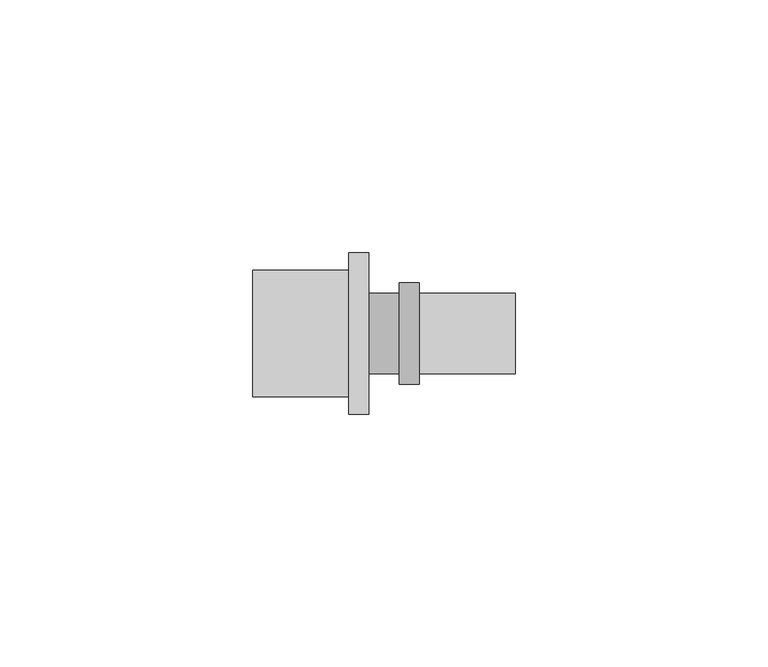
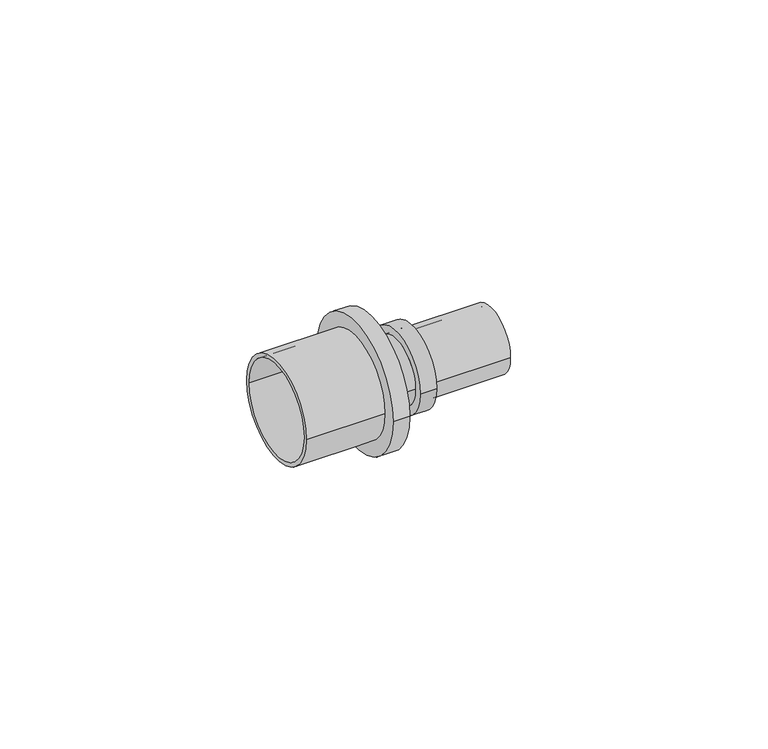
"""IFC4 building model written with IfcOpenShell, lengths in millimetres: pipe fitting geometry, БИР ПЕКС_НПР_Муфта редукционная : Муфта соединительная редукционная."""

from ifc_helpers import new_model, si_unit, point, frame, origin, origin_2d, place, context, project, spatial, circle_curve, trimmed, segment, composite_curve, outline, extrude, source, transform, mapped, element, save


def pipe_fitting_362eb17f(model_context):
    return source(origin(), model_context, "Body", "SweptSolid", [
        extrude(outline(composite_curve([segment(trimmed(circle_curve(origin_2d(), 8.0), [point((-8.0, 0.0))], [point((8.0, 0.0))], False, "CARTESIAN"), True, "CONTINUOUS"), segment(trimmed(circle_curve(origin_2d(), 8.0), [point((8.0, 0.0))], [point((-8.0, 0.0))], False, "CARTESIAN"), True, "CONTINUOUS")], self_intersect=False)), frame((-3.0, 0.0, 0.0), z_axis=(1.0, 0.0, 0.0), x_axis=(0.0, 1.0, 0.0)), (0.0, 0.0, 1.0), 6.0),
        extrude(outline(composite_curve([segment(trimmed(circle_curve(origin_2d(), 8.0), [point((-8.0, 0.0))], [point((8.0, 0.0))], False, "CARTESIAN"), True, "CONTINUOUS"), segment(trimmed(circle_curve(origin_2d(), 8.0), [point((8.0, 0.0))], [point((-8.0, 0.0))], False, "CARTESIAN"), True, "CONTINUOUS")], self_intersect=False), holes=[composite_curve([segment(trimmed(circle_curve(origin_2d(), 7.0), [point((-7.0, 0.0))], [point((7.0, 0.0))], True, "CARTESIAN"), True, "CONTINUOUS"), segment(trimmed(circle_curve(origin_2d(), 7.0), [point((7.0, 0.0))], [point((-7.0, 0.0))], True, "CARTESIAN"), True, "CONTINUOUS")], self_intersect=False)]), frame((7.0, 0.0, 0.0), z_axis=(1.0, 0.0, 0.0), x_axis=(0.0, 1.0, 0.0)), (0.0, 0.0, 1.0), 19.0),
        extrude(outline(composite_curve([segment(trimmed(circle_curve(origin_2d(), 12.5), [point((-12.5, 0.0))], [point((12.5, 0.0))], False, "CARTESIAN"), True, "CONTINUOUS"), segment(trimmed(circle_curve(origin_2d(), 12.5), [point((12.5, 0.0))], [point((-12.5, 0.0))], False, "CARTESIAN"), True, "CONTINUOUS")], self_intersect=False), holes=[composite_curve([segment(trimmed(circle_curve(origin_2d(), 11.5), [point((-11.5, 0.0))], [point((11.5, 0.0))], True, "CARTESIAN"), True, "CONTINUOUS"), segment(trimmed(circle_curve(origin_2d(), 11.5), [point((11.5, 0.0))], [point((-11.5, 0.0))], True, "CARTESIAN"), True, "CONTINUOUS")], self_intersect=False)]), frame((-26.0, 0.0, 0.0), z_axis=(1.0, 0.0, 0.0), x_axis=(0.0, 1.0, 0.0)), (0.0, 0.0, 1.0), 19.0),
        extrude(outline(composite_curve([segment(trimmed(circle_curve(origin_2d(), 10.0), [point((-10.0, 0.0))], [point((10.0, 0.0))], False, "CARTESIAN"), True, "CONTINUOUS"), segment(trimmed(circle_curve(origin_2d(), 10.0), [point((10.0, 0.0))], [point((-10.0, 0.0))], False, "CARTESIAN"), True, "CONTINUOUS")], self_intersect=False), holes=[composite_curve([segment(trimmed(circle_curve(origin_2d(), 8.0), [point((-8.0, 0.0))], [point((8.0, 0.0))], True, "CARTESIAN"), True, "CONTINUOUS"), segment(trimmed(circle_curve(origin_2d(), 8.0), [point((8.0, 0.0))], [point((-8.0, 0.0))], True, "CARTESIAN"), True, "CONTINUOUS")], self_intersect=False)]), frame((3.0, 0.0, 0.0), z_axis=(1.0, 0.0, 0.0), x_axis=(0.0, 1.0, 0.0)), (0.0, 0.0, 1.0), 4.0),
        extrude(outline(composite_curve([segment(trimmed(circle_curve(origin_2d(), 16.0), [point((-16.0, 0.0))], [point((16.0, 0.0))], False, "CARTESIAN"), True, "CONTINUOUS"), segment(trimmed(circle_curve(origin_2d(), 16.0), [point((16.0, 0.0))], [point((-16.0, 0.0))], False, "CARTESIAN"), True, "CONTINUOUS")], self_intersect=False), holes=[composite_curve([segment(trimmed(circle_curve(origin_2d(), 8.0), [point((-8.0, 0.0))], [point((8.0, 0.0))], True, "CARTESIAN"), True, "CONTINUOUS"), segment(trimmed(circle_curve(origin_2d(), 8.0), [point((8.0, 0.0))], [point((-8.0, 0.0))], True, "CARTESIAN"), True, "CONTINUOUS")], self_intersect=False)]), frame((-7.0, 0.0, 0.0), z_axis=(1.0, 0.0, 0.0), x_axis=(0.0, 1.0, 0.0)), (0.0, 0.0, 1.0), 4.0),
    ])


if __name__ == "__main__":
    model = new_model("IFC4")
    model_context = context("Model", 3, world=origin())
    ifc_project = project(units=[si_unit("LENGTHUNIT", "METRE", prefix="MILLI")], contexts=[model_context])
    site = spatial("IfcSite", under=ifc_project)
    building = spatial("IfcBuilding", under=site)
    placement = place(None, origin())
    pipe_fitting_shape = pipe_fitting_362eb17f(model_context)
    element("IfcPipeFitting", 1, ObjectType="БИР ПЕКС_НПР_Муфта редукционная : Муфта соединительная редукционная", at=placement, inside=building, context=model_context, shape_type="MappedRepresentation", body=[
        mapped(pipe_fitting_shape, transform((0.0, 0.0, 0.0), x_axis=(1.0, 0.0, 0.0), y_axis=(0.0, 1.0, 0.0), z_axis=(0.0, 0.0, 1.0))),
    ])
    save(model, "model.ifc")
